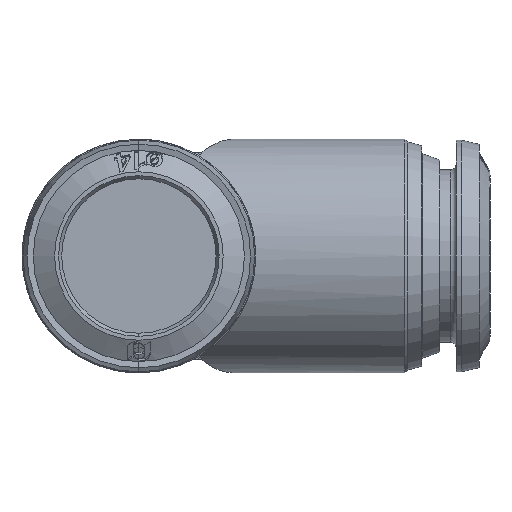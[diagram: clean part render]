
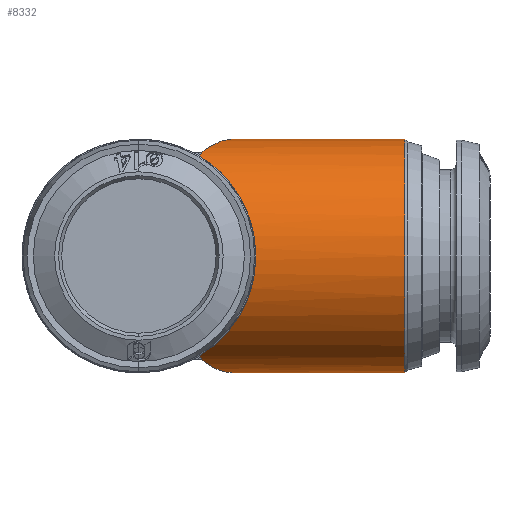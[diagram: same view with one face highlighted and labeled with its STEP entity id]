
A CAD part, front view. The second image highlights one B-rep face of the part: STEP entity #8332.
In plain terms, the highlighted cylindrical face has radius 10.75 mm (diameter 21.5 mm), a partial arc.
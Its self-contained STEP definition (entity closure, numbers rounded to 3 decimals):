
#956 = CARTESIAN_POINT ( 'NONE',  ( 8.599, -0.163, 10.749 ) ) ;
#957 = CARTESIAN_POINT ( 'NONE',  ( 8.552, -0.244, 10.747 ) ) ;
#962 = CARTESIAN_POINT ( 'NONE',  ( 7.835, -1.487, 10.665 ) ) ;
#963 = CARTESIAN_POINT ( 'NONE',  ( 7.483, -2.097, 10.543 ) ) ;
#964 = CARTESIAN_POINT ( 'NONE',  ( 8.646, -0.081, 10.75 ) ) ;
#965 = CARTESIAN_POINT ( 'NONE',  ( 8.693, 0., 10.75 ) ) ;
#966 = CARTESIAN_POINT ( 'NONE',  ( 6.694, -3.464, 10.201 ) ) ;
#967 = CARTESIAN_POINT ( 'NONE',  ( 6.318, -4.114, 9.932 ) ) ;
#968 = CARTESIAN_POINT ( 'NONE',  ( 8.193, -0.866, 10.733 ) ) ;
#969 = CARTESIAN_POINT ( 'NONE',  ( 8.552, -0.244, 10.747 ) ) ;
#970 = CARTESIAN_POINT ( 'NONE',  ( 5.961, -4.732, 9.658 ) ) ;
#971 = CARTESIAN_POINT ( 'NONE',  ( 5.789, -5.031, 9.5 ) ) ;
#972 = CARTESIAN_POINT ( 'NONE',  ( 7.084, -2.787, 10.406 ) ) ;
#973 = CARTESIAN_POINT ( 'NONE',  ( 7.483, -2.097, 10.543 ) ) ;
#976 = CARTESIAN_POINT ( 'NONE',  ( 6.138, -4.426, 9.802 ) ) ;
#977 = CARTESIAN_POINT ( 'NONE',  ( 6.318, -4.114, 9.932 ) ) ;
#1169 = CARTESIAN_POINT ( 'NONE',  ( 13.293, -13.293, -4.514 ) ) ;
#1170 = CARTESIAN_POINT ( 'NONE',  ( 5.572, -5.572, -9.193 ) ) ;
#1175 = CARTESIAN_POINT ( 'NONE',  ( 13.293, -13.293, 4.514 ) ) ;
#1176 = CARTESIAN_POINT ( 'NONE',  ( 5.572, -5.572, 9.193 ) ) ;
#1206 = CARTESIAN_POINT ( 'NONE',  ( 0., 0., -10.75 ) ) ;
#1207 = DIRECTION ( 'NONE',  ( -1., 0., 0. ) ) ;
#1246 = CARTESIAN_POINT ( 'NONE',  ( 0., 0., 10.75 ) ) ;
#1247 = DIRECTION ( 'NONE',  ( -1., 0., 0. ) ) ;
#3030 = FACE_OUTER_BOUND ( 'NONE', #9373, .T. ) ;
#3038 = CYLINDRICAL_SURFACE ( 'NONE', #15806, 10.75 ) ;
#5911 = B_SPLINE_CURVE_WITH_KNOTS ( 'NONE', 3,
 ( #957, #956, #964, #965 ),
 .UNSPECIFIED., .F., .F.,
 ( 4, 4 ),
 ( 0.018, 0.018 ),
 .UNSPECIFIED. ) ;
#5912 = B_SPLINE_CURVE_WITH_KNOTS ( 'NONE', 3,
 ( #963, #962, #968, #969 ),
 .UNSPECIFIED., .F., .F.,
 ( 4, 4 ),
 ( 0., 1. ),
 .UNSPECIFIED. ) ;
#5913 = B_SPLINE_CURVE_WITH_KNOTS ( 'NONE', 3,
 ( #967, #966, #972, #973 ),
 .UNSPECIFIED., .F., .F.,
 ( 4, 4 ),
 ( 0., 1. ),
 .UNSPECIFIED. ) ;
#5914 = B_SPLINE_CURVE_WITH_KNOTS ( 'NONE', 3,
 ( #971, #970, #976, #977 ),
 .UNSPECIFIED., .F., .F.,
 ( 4, 4 ),
 ( 0., 1. ),
 .UNSPECIFIED. ) ;
#6031 = ORIENTED_EDGE ( 'NONE', *, *, #15381, .F. ) ;
#6032 = ORIENTED_EDGE ( 'NONE', *, *, #8715, .T. ) ;
#6033 = ORIENTED_EDGE ( 'NONE', *, *, #15402, .T. ) ;
#6034 = ORIENTED_EDGE ( 'NONE', *, *, #15246, .F. ) ;
#6035 = ORIENTED_EDGE ( 'NONE', *, *, #15248, .F. ) ;
#6036 = ORIENTED_EDGE ( 'NONE', *, *, #15250, .F. ) ;
#6037 = ORIENTED_EDGE ( 'NONE', *, *, #15253, .F. ) ;
#6038 = ORIENTED_EDGE ( 'NONE', *, *, #8716, .T. ) ;
#6039 = ORIENTED_EDGE ( 'NONE', *, *, #15365, .F. ) ;
#6040 = ORIENTED_EDGE ( 'NONE', *, *, #8717, .F. ) ;
#6041 = ORIENTED_EDGE ( 'NONE', *, *, #8718, .T. ) ;
#6042 = ORIENTED_EDGE ( 'NONE', *, *, #8719, .F. ) ;
#7533 =( BOUNDED_CURVE ( )  B_SPLINE_CURVE ( 3, ( #10545, #10512, #10540, #10546 ),
 .UNSPECIFIED., .F., .F. ) 
 B_SPLINE_CURVE_WITH_KNOTS ( ( 4, 4 ),
 ( 5.691, 5.749 ),
 .UNSPECIFIED. ) 
 CURVE ( )  GEOMETRIC_REPRESENTATION_ITEM ( )  RATIONAL_B_SPLINE_CURVE ( ( 1., 1., 1., 1. ) ) 
 REPRESENTATION_ITEM ( '' )  );
#7534 =( BOUNDED_CURVE ( )  B_SPLINE_CURVE ( 3, ( #10541, #10495, #10550, #10551 ),
 .UNSPECIFIED., .F., .F. ) 
 B_SPLINE_CURVE_WITH_KNOTS ( ( 4, 4 ),
 ( 5.691, 5.749 ),
 .UNSPECIFIED. ) 
 CURVE ( )  GEOMETRIC_REPRESENTATION_ITEM ( )  RATIONAL_B_SPLINE_CURVE ( ( 1., 1., 1., 1. ) ) 
 REPRESENTATION_ITEM ( '' )  );
#7535 = B_SPLINE_CURVE_WITH_KNOTS ( 'NONE', 3,
 ( #10547, #10549, #10553, #10554 ),
 .UNSPECIFIED., .F., .F.,
 ( 4, 4 ),
 ( 0., 1. ),
 .UNSPECIFIED. ) ;
#7536 = B_SPLINE_CURVE_WITH_KNOTS ( 'NONE', 3,
 ( #10548, #10552, #10556, #10557, #10558, #10559 ),
 .UNSPECIFIED., .F., .F.,
 ( 4, 2, 4 ),
 ( 0.333, 0.667, 1. ),
 .UNSPECIFIED. ) ;
#7712 = AXIS2_PLACEMENT_3D ( 'NONE', #10542, #10543, #10544 ) ;
#8332 = ADVANCED_FACE ( 'NONE', ( #3030 ), #3038, .T. ) ;
#8715 = EDGE_CURVE ( 'NONE', #8904, #8903, #16734, .T. ) ;
#8716 = EDGE_CURVE ( 'NONE', #9057, #8914, #7533, .T. ) ;
#8717 = EDGE_CURVE ( 'NONE', #9562, #8907, #7534, .T. ) ;
#8718 = EDGE_CURVE ( 'NONE', #9562, #9559, #7535, .T. ) ;
#8719 = EDGE_CURVE ( 'NONE', #8869, #9559, #7536, .T. ) ;
#8869 = VERTEX_POINT ( 'NONE', #11192 ) ;
#8903 = VERTEX_POINT ( 'NONE', #11217 ) ;
#8904 = VERTEX_POINT ( 'NONE', #11226 ) ;
#8907 = VERTEX_POINT ( 'NONE', #11229 ) ;
#8914 = VERTEX_POINT ( 'NONE', #11236 ) ;
#9053 = VERTEX_POINT ( 'NONE', #11375 ) ;
#9054 = VERTEX_POINT ( 'NONE', #11376 ) ;
#9055 = VERTEX_POINT ( 'NONE', #11377 ) ;
#9056 = VERTEX_POINT ( 'NONE', #11378 ) ;
#9057 = VERTEX_POINT ( 'NONE', #11379 ) ;
#9373 = EDGE_LOOP ( 'NONE', ( #6031, #6032, #6033, #6034, #6035, #6036, #6037, #6038, #6039, #6040, #6041, #6042 ) ) ;
#9559 = VERTEX_POINT ( 'NONE', #11497 ) ;
#9562 = VERTEX_POINT ( 'NONE', #11500 ) ;
#10495 = CARTESIAN_POINT ( 'NONE',  ( 5.713, -5.214, -9.403 ) ) ;
#10512 = CARTESIAN_POINT ( 'NONE',  ( 5.713, -5.214, 9.403 ) ) ;
#10540 = CARTESIAN_POINT ( 'NONE',  ( 5.641, -5.394, 9.301 ) ) ;
#10541 = CARTESIAN_POINT ( 'NONE',  ( 5.789, -5.031, -9.5 ) ) ;
#10542 = CARTESIAN_POINT ( 'NONE',  ( 24.448, 0., 0. ) ) ;
#10543 = DIRECTION ( 'NONE',  ( -1., 0., 0. ) ) ;
#10544 = DIRECTION ( 'NONE',  ( 0., 0., 1. ) ) ;
#10545 = CARTESIAN_POINT ( 'NONE',  ( 5.789, -5.031, 9.5 ) ) ;
#10546 = CARTESIAN_POINT ( 'NONE',  ( 5.572, -5.572, 9.193 ) ) ;
#10547 = CARTESIAN_POINT ( 'NONE',  ( 5.789, -5.031, -9.5 ) ) ;
#10548 = CARTESIAN_POINT ( 'NONE',  ( 8.693, 0., -10.75 ) ) ;
#10549 = CARTESIAN_POINT ( 'NONE',  ( 5.955, -4.742, -9.653 ) ) ;
#10550 = CARTESIAN_POINT ( 'NONE',  ( 5.641, -5.394, -9.301 ) ) ;
#10551 = CARTESIAN_POINT ( 'NONE',  ( 5.572, -5.572, -9.193 ) ) ;
#10552 = CARTESIAN_POINT ( 'NONE',  ( 8.287, -0.704, -10.75 ) ) ;
#10553 = CARTESIAN_POINT ( 'NONE',  ( 6.132, -4.437, -9.798 ) ) ;
#10554 = CARTESIAN_POINT ( 'NONE',  ( 6.318, -4.114, -9.932 ) ) ;
#10556 = CARTESIAN_POINT ( 'NONE',  ( 7.881, -1.407, -10.681 ) ) ;
#10557 = CARTESIAN_POINT ( 'NONE',  ( 7.084, -2.787, -10.406 ) ) ;
#10558 = CARTESIAN_POINT ( 'NONE',  ( 6.694, -3.464, -10.201 ) ) ;
#10559 = CARTESIAN_POINT ( 'NONE',  ( 6.318, -4.114, -9.932 ) ) ;
#11192 = CARTESIAN_POINT ( 'NONE',  ( 8.693, 0., -10.75 ) ) ;
#11217 = CARTESIAN_POINT ( 'NONE',  ( 24.448, 0., 10.75 ) ) ;
#11226 = CARTESIAN_POINT ( 'NONE',  ( 24.448, 0., -10.75 ) ) ;
#11229 = CARTESIAN_POINT ( 'NONE',  ( 5.572, -5.572, -9.193 ) ) ;
#11236 = CARTESIAN_POINT ( 'NONE',  ( 5.572, -5.572, 9.193 ) ) ;
#11375 = CARTESIAN_POINT ( 'NONE',  ( 8.693, 0., 10.75 ) ) ;
#11376 = CARTESIAN_POINT ( 'NONE',  ( 8.552, -0.244, 10.747 ) ) ;
#11377 = CARTESIAN_POINT ( 'NONE',  ( 7.483, -2.097, 10.543 ) ) ;
#11378 = CARTESIAN_POINT ( 'NONE',  ( 6.318, -4.114, 9.932 ) ) ;
#11379 = CARTESIAN_POINT ( 'NONE',  ( 5.789, -5.031, 9.5 ) ) ;
#11497 = CARTESIAN_POINT ( 'NONE',  ( 6.318, -4.114, -9.932 ) ) ;
#11500 = CARTESIAN_POINT ( 'NONE',  ( 5.789, -5.031, -9.5 ) ) ;
#14082 =( BOUNDED_CURVE ( )  B_SPLINE_CURVE ( 3, ( #1170, #1169, #1175, #1176 ),
 .UNSPECIFIED., .F., .F. ) 
 B_SPLINE_CURVE_WITH_KNOTS ( ( 4, 4 ),
 ( 2.116, 4.168 ),
 .UNSPECIFIED. ) 
 CURVE ( )  GEOMETRIC_REPRESENTATION_ITEM ( )  RATIONAL_B_SPLINE_CURVE ( ( 1., 0.679, 0.679, 1. ) ) 
 REPRESENTATION_ITEM ( '' )  );
#15139 = DIRECTION ( 'NONE',  ( -1., 0., 0. ) ) ;
#15160 = CARTESIAN_POINT ( 'NONE',  ( 0., 0., 0. ) ) ;
#15175 = DIRECTION ( 'NONE',  ( 0., 0., 1. ) ) ;
#15246 = EDGE_CURVE ( 'NONE', #9054, #9053, #5911, .T. ) ;
#15248 = EDGE_CURVE ( 'NONE', #9055, #9054, #5912, .T. ) ;
#15250 = EDGE_CURVE ( 'NONE', #9056, #9055, #5913, .T. ) ;
#15253 = EDGE_CURVE ( 'NONE', #9057, #9056, #5914, .T. ) ;
#15365 = EDGE_CURVE ( 'NONE', #8907, #8914, #14082, .T. ) ;
#15381 = EDGE_CURVE ( 'NONE', #8904, #8869, #16844, .T. ) ;
#15402 = EDGE_CURVE ( 'NONE', #8903, #9053, #16843, .T. ) ;
#15806 = AXIS2_PLACEMENT_3D ( 'NONE', #15160, #15139, #15175 ) ;
#16734 = CIRCLE ( 'NONE', #7712, 10.75 ) ;
#16843 = LINE ( 'NONE', #1246, #16847 ) ;
#16844 = LINE ( 'NONE', #1206, #16845 ) ;
#16845 = VECTOR ( 'NONE', #1207, 1000. ) ;
#16847 = VECTOR ( 'NONE', #1247, 1000. ) ;
